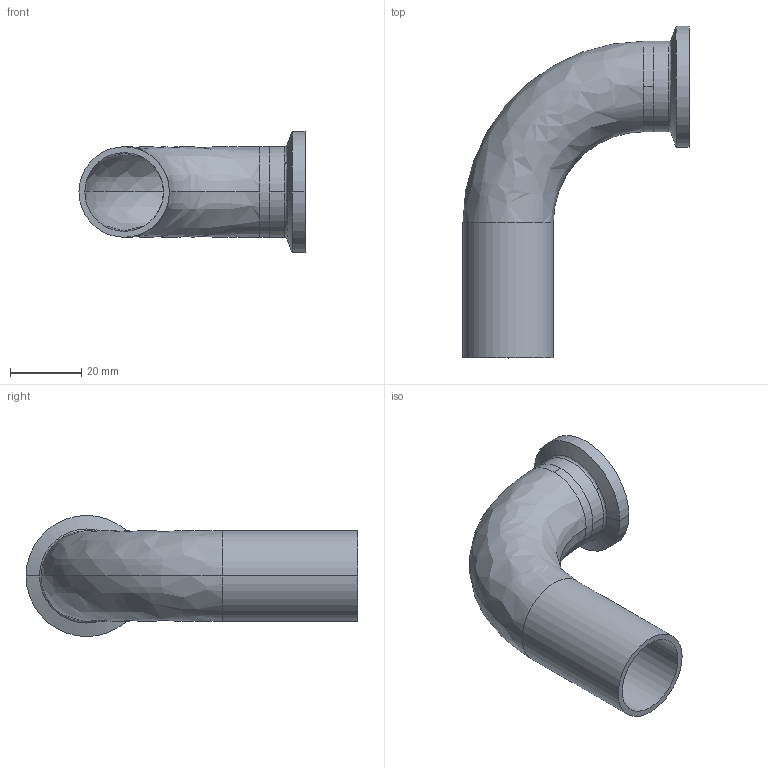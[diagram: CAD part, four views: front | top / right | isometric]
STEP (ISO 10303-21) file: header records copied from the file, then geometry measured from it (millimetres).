
FILE_DESCRIPTION (( 'STEP AP214' ), '1' );
FILE_NAME ('TE2C6L1.0-..(Type A).STEP', '2016-05-22T09:30:26', ( 'eran' ), ( '' ), 'SwSTEP 2.0', 'SolidWorks 2016', '' );
FILE_SCHEMA (( 'AUTOMOTIVE_DESIGN' ));
Length unit declared in the file: millimetre
Products named in the file (1): TE2C6L1.0-..(Type A)
Bounding box: 63.5 x 93.21 x 34.01 mm (x, y, z)
Volume: 14902.2 mm3; surface area: 17935.3 mm2
Topology: 2 solids, 2 shells, 37 faces, 90 edges, 58 vertices
Faces by surface type: cylinder 16, bspline 12, plane 5, cone 4
Entity records: 1305 total; most frequent: CARTESIAN_POINT 378, DIRECTION 204, ORIENTED_EDGE 180, AXIS2_PLACEMENT_3D 92, EDGE_CURVE 90, CIRCLE 66, VERTEX_POINT 58, EDGE_LOOP 42
